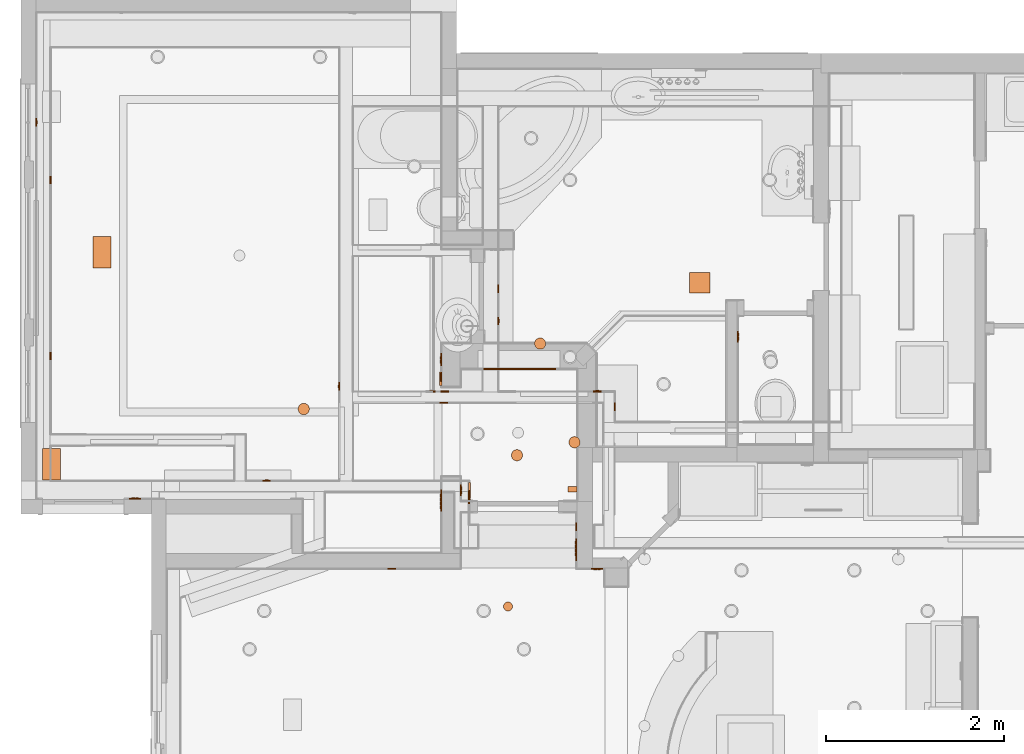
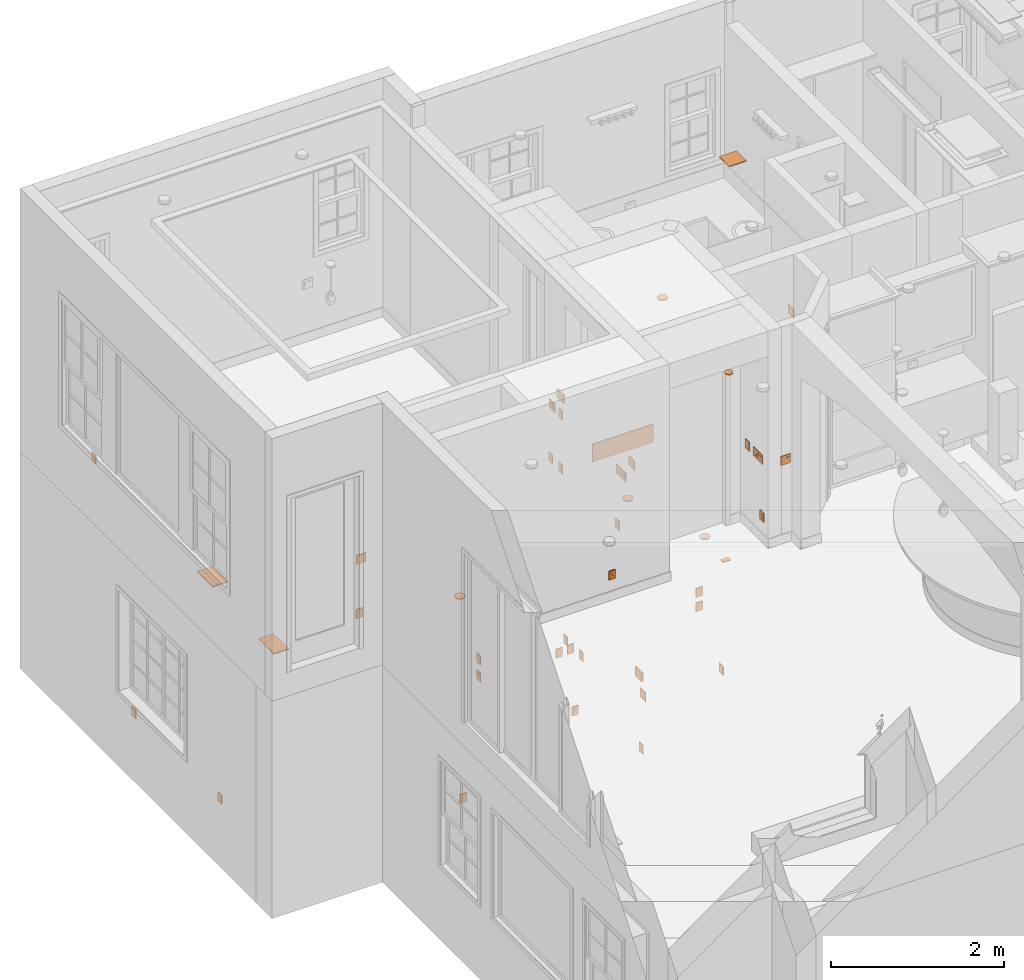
# One storey, part 67 of 81: 43 proxies.
"""IFC2X3 building model written with IfcOpenShell, lengths in feet."""

from ifc_helpers import new_model, entity, si_unit, converted_unit, derived_unit, direction, frame, frame_2d, origin, origin_2d_with_axis, place, context, subcontext, project, spatial, polyline, circle_curve, parameter, trimmed, segment, composite_curve, rectangle, circle, outline, extrude, source, transform, mapped, material, type_object, type_shapes, element, save


model = new_model("IFC2X3")

# Units and contexts
model_context = context("Model", 3, precision=0.0001, world=origin(), true_north=direction((6.12303176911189e-17, 1.0)))
body_context = subcontext(model_context, "Body", "Model", "MODEL_VIEW")
ifc_project = project(units=[converted_unit("LENGTHUNIT", "FOOT", entity("IfcRatioMeasure", 0.3048), si_unit("LENGTHUNIT", "METRE"), dimensions=[1, 0, 0, 0, 0, 0, 0]), converted_unit("AREAUNIT", "SQUARE FOOT", entity("IfcRatioMeasure", 0.09290304), si_unit("AREAUNIT", "SQUARE_METRE"), dimensions=[2, 0, 0, 0, 0, 0, 0]), converted_unit("VOLUMEUNIT", "CUBIC FOOT", entity("IfcRatioMeasure", 0.028316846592), si_unit("VOLUMEUNIT", "CUBIC_METRE"), dimensions=[3, 0, 0, 0, 0, 0, 0]), converted_unit("PLANEANGLEUNIT", "DEGREE", entity("IfcRatioMeasure", 0.0174532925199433), si_unit("PLANEANGLEUNIT", "RADIAN"), dimensions=[0, 0, 0, 0, 0, 0, 0]), si_unit("MASSUNIT", "GRAM", prefix="KILO"), derived_unit("MASSDENSITYUNIT", [(si_unit("MASSUNIT", "GRAM", prefix="KILO"), 1), (si_unit("LENGTHUNIT", "METRE"), -3)]), derived_unit("MOMENTOFINERTIAUNIT", [(si_unit("LENGTHUNIT", "METRE"), 4)]), si_unit("TIMEUNIT", "SECOND"), si_unit("FREQUENCYUNIT", "HERTZ"), si_unit("THERMODYNAMICTEMPERATUREUNIT", "DEGREE_CELSIUS"), derived_unit("THERMALTRANSMITTANCEUNIT", [(si_unit("MASSUNIT", "GRAM", prefix="KILO"), 1), (si_unit("THERMODYNAMICTEMPERATUREUNIT", "KELVIN"), -1), (si_unit("TIMEUNIT", "SECOND"), -3)]), derived_unit("VOLUMETRICFLOWRATEUNIT", [(si_unit("LENGTHUNIT", "METRE"), 3), (si_unit("TIMEUNIT", "SECOND"), -1)]), si_unit("ELECTRICCURRENTUNIT", "AMPERE"), si_unit("ELECTRICVOLTAGEUNIT", "VOLT"), si_unit("POWERUNIT", "WATT"), si_unit("FORCEUNIT", "NEWTON"), si_unit("ILLUMINANCEUNIT", "LUX"), si_unit("LUMINOUSFLUXUNIT", "LUMEN"), si_unit("LUMINOUSINTENSITYUNIT", "CANDELA"), derived_unit("USERDEFINED", [(si_unit("MASSUNIT", "GRAM", prefix="KILO"), -1), (si_unit("LENGTHUNIT", "METRE"), -2), (si_unit("TIMEUNIT", "SECOND"), 3), (si_unit("LUMINOUSFLUXUNIT", "LUMEN"), 1)]), derived_unit("LINEARVELOCITYUNIT", [(si_unit("LENGTHUNIT", "METRE"), 1), (si_unit("TIMEUNIT", "SECOND"), -1)]), si_unit("PRESSUREUNIT", "PASCAL"), derived_unit("USERDEFINED", [(si_unit("LENGTHUNIT", "METRE"), -2), (si_unit("MASSUNIT", "GRAM", prefix="KILO"), 1), (si_unit("TIMEUNIT", "SECOND"), -2)]), derived_unit("LINEARFORCEUNIT", [(si_unit("MASSUNIT", "GRAM", prefix="KILO"), 1), (si_unit("LENGTHUNIT", "METRE"), 1), (si_unit("TIMEUNIT", "SECOND"), -2), (si_unit("LENGTHUNIT", "METRE"), -1)]), derived_unit("PLANARFORCEUNIT", [(si_unit("MASSUNIT", "GRAM", prefix="KILO"), 1), (si_unit("LENGTHUNIT", "METRE"), 1), (si_unit("TIMEUNIT", "SECOND"), -2), (si_unit("LENGTHUNIT", "METRE"), -2)])], contexts=[model_context])

# Site, building, storey
site_placement = place(None, origin())
site = spatial("IfcSite", under=ifc_project, at=site_placement, Name="Default", CompositionType="ELEMENT")
building_placement = place(site_placement, origin())
building = spatial("IfcBuilding", under=site, at=building_placement, CompositionType="ELEMENT")
storey_placement = place(building_placement, origin())
storey = spatial("IfcBuildingStorey", under=building, at=storey_placement, Name="First floor", CompositionType="ELEMENT", Elevation=0.0)

# Proxies
ifc_material = material(Name="Default New Material")
building_element_proxy_type_1 = type_object("IfcBuildingElementProxyType", Name="Switch 4:Switch 4", PredefinedType="NOTDEFINED", material=ifc_material)
shared_shape_1 = source(origin(), body_context, "Body", "SweptSolid", [
    extrude(outline(composite_curve([segment(polyline([(-0.0309162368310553, -0.0465871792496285), (0.0309162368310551, -0.0465871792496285)]), True, "CONTINUOUS"), segment(trimmed(circle_curve(frame_2d((-0.000264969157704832, 0.0), x_axis=(-1.0, 0.0)), 0.056059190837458), [parameter(123.794740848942)], [parameter(236.205259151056)], True, "PARAMETER"), True, "CONTINUOUS"), segment(polyline([(0.0309162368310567, 0.0465871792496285), (-0.0309162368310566, 0.0465871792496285)]), True, "CONTINUOUS"), segment(trimmed(circle_curve(frame_2d((0.000264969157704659, 0.0), x_axis=(1.0, 0.0)), 0.056059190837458), [parameter(123.794740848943)], [parameter(236.205259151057)], True, "PARAMETER"), True, "CONTINUOUS")], self_intersect=False), holes=[polyline([(0.0141623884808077, 0.0279286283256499), (0.0261732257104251, 0.0279286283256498), (0.026173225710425, -0.00693584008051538), (0.0141623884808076, -0.00693584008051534), (0.0141623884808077, 0.0279286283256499)]), polyline([(-0.0152702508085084, 0.0250466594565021), (-0.0152702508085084, -0.00448340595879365), (-0.0278178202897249, -0.00448340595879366), (-0.0278178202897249, 0.0250466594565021), (-0.0152702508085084, 0.0250466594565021)]), composite_curve([segment(polyline([(-0.0120315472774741, -0.041319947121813), (-0.0120315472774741, -0.0300186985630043)]), True, "CONTINUOUS"), segment(trimmed(circle_curve(frame_2d((-0.000284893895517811, -0.0300186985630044), x_axis=(-1.0, 0.0)), 0.0117466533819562), [parameter(180.0)], [parameter(0.0)], True, "PARAMETER"), False, "CONTINUOUS"), segment(polyline([(0.0114617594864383, -0.0300186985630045), (0.0114617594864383, -0.0413199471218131)]), True, "CONTINUOUS"), segment(polyline([(0.0114617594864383, -0.0413199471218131), (-0.0120315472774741, -0.041319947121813)]), True, "CONTINUOUS")], self_intersect=False)]), frame((-0.0114927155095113, 0.0416666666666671, 0.27060332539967), z_axis=(0.0, 1.0, 0.0), x_axis=(-1.0, 0.0, 0.0)), (0.0, 0.0, 1.0), 0.00420900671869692),
    extrude(outline(composite_curve([segment(polyline([(-0.0307631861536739, -0.0463565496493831), (0.0307631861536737, -0.0463565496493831)]), True, "CONTINUOUS"), segment(trimmed(circle_curve(frame_2d((-0.000263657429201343, 0.0), x_axis=(-1.0, 0.0)), 0.0557816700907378), [parameter(123.794740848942)], [parameter(236.205259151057)], True, "PARAMETER"), True, "CONTINUOUS"), segment(polyline([(0.030763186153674, 0.0463565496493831), (-0.0307631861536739, 0.0463565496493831)]), True, "CONTINUOUS"), segment(trimmed(circle_curve(frame_2d((0.00026365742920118, 0.0), x_axis=(1.0, 0.0)), 0.0557816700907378), [parameter(123.794740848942)], [parameter(236.205259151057)], True, "PARAMETER"), True, "CONTINUOUS")], self_intersect=False), holes=[polyline([(0.0140922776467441, 0.0247228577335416), (0.026043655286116, 0.0247228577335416), (0.0260436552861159, -0.00472751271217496), (0.014092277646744, -0.00472751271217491), (0.0140922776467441, 0.0247228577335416)]), polyline([(-0.0151946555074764, 0.0249226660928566), (-0.0151946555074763, -0.0044612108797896), (-0.0276801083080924, -0.00446121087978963), (-0.0276801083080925, 0.0249226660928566), (-0.0151946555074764, 0.0249226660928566)]), composite_curve([segment(polyline([(-0.0119719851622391, -0.0411153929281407), (-0.011971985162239, -0.0298700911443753)]), True, "CONTINUOUS"), segment(trimmed(circle_curve(frame_2d((-0.000283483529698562, -0.0298700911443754), x_axis=(-1.0, 0.0)), 0.0116885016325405), [parameter(180.0)], [parameter(0.0)], True, "PARAMETER"), False, "CONTINUOUS"), segment(polyline([(0.0114050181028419, -0.0298700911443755), (0.0114050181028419, -0.0411153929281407)]), True, "CONTINUOUS"), segment(polyline([(0.0114050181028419, -0.0411153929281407), (-0.0119719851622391, -0.0411153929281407)]), True, "CONTINUOUS")], self_intersect=False)]), frame((-0.0114927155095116, 0.0416666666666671, 0.145832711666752), z_axis=(0.0, 1.0, 0.0), x_axis=(-1.0, 0.0, 0.0)), (0.0, 0.0, 1.0), 0.00420900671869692),
    extrude(rectangle(XDim=0.0416666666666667, YDim=0.291666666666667, at=frame_2d((0.0, 1.38777878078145e-17), x_axis=(1.0, 0.0))), frame((-0.0114927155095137, 0.0208333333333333, 0.0), z_axis=(0.0, 0.0, 1.0), x_axis=(0.0, -1.0, 0.0)), (0.0, 0.0, 1.0), 0.416666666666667),
])
type_shapes(building_element_proxy_type_1, [shared_shape_1])
proxy_1_placement = place(storey_placement, frame((-6.26149271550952, 35.1666666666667, 0.958333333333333), z_axis=(0.0, 0.0, 1.0), x_axis=(-1.0, 0.0, 0.0)))
element("IfcBuildingElementProxy", 1, at=proxy_1_placement, inside=storey, type_object=building_element_proxy_type_1, material=ifc_material, Name="Switch 4:Switch 4", ObjectType="Switch 4:Switch 4", context=body_context, shape_type="MappedRepresentation", body=[
    mapped(shared_shape_1, transform((0.0, 0.0, 0.0), scale=1.0)),
])
proxy_2_placement = place(storey_placement, frame((-12.7801739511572, 32.25, 0.958333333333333)))
element("IfcBuildingElementProxy", 2, at=proxy_2_placement, inside=storey, type_object=building_element_proxy_type_1, material=ifc_material, Name="Switch 4:Switch 4", ObjectType="Switch 4:Switch 4", context=body_context, shape_type="MappedRepresentation", body=[
    mapped(shared_shape_1, transform((0.0, 0.0, 0.0), scale=1.0)),
])
for number, where, z_axis, x_axis, name in (
    (3, (-20.7916666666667, 43.3635072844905, 0.958333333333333), (0.0, 0.0, 1.0), (0.0, -1.0, 0.0), "Switch 4:Switch 4"),
    (4, (-20.7916666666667, 36.8635072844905, 0.958333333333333), (0.0, 0.0, 1.0), (0.0, -1.0, 0.0), "Switch 4:Switch 4"),
    (5, (-4.25000000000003, 38.1551739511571, 0.958333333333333), (0.0, 0.0, 1.0), (0.0, -1.0, 0.0), "Switch 4:Switch 4"),
    (6, (-21.3125, 45.4885072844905, 11.625), (0.0, 0.0, 1.0), (0.0, -1.0, 0.0), "Switch 4:Switch 4"),
):
    element("IfcBuildingElementProxy", number, at=place(storey_placement, frame(where, z_axis=z_axis, x_axis=x_axis)), inside=storey, type_object=building_element_proxy_type_1, material=ifc_material, Name=name, ObjectType="Switch 4:Switch 4", context=body_context, shape_type="MappedRepresentation", body=[
        mapped(shared_shape_1, transform((0.0, 0.0, 0.0), scale=1.0)),
    ])
proxy_3_placement = place(storey_placement, frame((-17.7083333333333, 31.5833333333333, 11.625)))
element("IfcBuildingElementProxy", 7, at=proxy_3_placement, inside=storey, type_object=building_element_proxy_type_1, material=ifc_material, Name="Switch 4:Switch 4", ObjectType="Switch 4:Switch 4", context=body_context, shape_type="MappedRepresentation", body=[
    mapped(shared_shape_1, transform((0.0, 0.0, 0.0), scale=1.0)),
])
for number, where, z_axis, x_axis, name in (
    (8, (-6.31250000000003, 31.8031593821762, 11.625), (0.0, 0.0, 1.0), (0.0, 1.0, 0.0), "Switch 4:Switch 4"),
    (9, (-6.31250000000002, 36.0948260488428, 11.625), (0.0, 0.0, 1.0), (0.0, 1.0, 0.0), "Switch 4:Switch 4"),
    (10, (-8.17815938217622, 29.0416666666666, 11.6250022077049), (0.0, 0.0, 1.0), (-1.0, 0.0, 0.0), "Switch 4:Switch 4"),
    (11, (-1.33333333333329, 29.4791666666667, 11.6666666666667), (0.0, 0.0, 1.0), (0.0, 1.0, 0.0), "Switch 4:Switch 4"),
):
    element("IfcBuildingElementProxy", number, at=place(storey_placement, frame(where, z_axis=z_axis, x_axis=x_axis)), inside=storey, type_object=building_element_proxy_type_1, material=ifc_material, Name=name, ObjectType="Switch 4:Switch 4", context=body_context, shape_type="MappedRepresentation", body=[
        mapped(shared_shape_1, transform((0.0, 0.0, 0.0), scale=1.0)),
    ])
building_element_proxy_type_2 = type_object("IfcBuildingElementProxyType", Name="Switch 1:Switch 1", PredefinedType="NOTDEFINED", material=ifc_material)
shared_shape_2 = source(origin(), body_context, "Body", "SweptSolid", [
    extrude(rectangle(XDim=0.0416666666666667, YDim=0.291666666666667, at=frame_2d((1.73472347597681e-18, -1.38777878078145e-17), x_axis=(1.0, 0.0))), frame((0.0149704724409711, 0.0208333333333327, 0.0), z_axis=(0.0, 0.0, 1.0), x_axis=(0.0, 1.0, 0.0)), (0.0, 0.0, 1.0), 0.416666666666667),
])
type_shapes(building_element_proxy_type_2, [shared_shape_2])
for number, where, z_axis, x_axis, name in (
    (12, (-5.29166666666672, 31.7350295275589, 0.958333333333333), (0.0, 0.0, 1.0), (0.0, 1.0, 0.0), "Switch 1:Switch 1"),
    (13, (-10.0833333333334, 35.735029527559, 4.33333333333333), (0.0, 0.0, 1.0), (0.0, 1.0, 0.0), "Switch 1:Switch 1"),
):
    element("IfcBuildingElementProxy", number, at=place(storey_placement, frame(where, z_axis=z_axis, x_axis=x_axis)), inside=storey, type_object=building_element_proxy_type_2, material=ifc_material, Name=name, ObjectType="Switch 1:Switch 1", context=body_context, shape_type="MappedRepresentation", body=[
        mapped(shared_shape_2, transform((0.0, 0.0, 0.0), scale=1.0)),
    ])
for number, where, name in (
    (14, (-6.22330380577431, 35.5416666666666, 3.54166666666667), "Switch 1:Switch 1"),
    (15, (-0.59830380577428, 35.5416666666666, 4.20833333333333), "Switch 1:Switch 1"),
):
    element("IfcBuildingElementProxy", number, at=place(storey_placement, frame(where)), inside=storey, type_object=building_element_proxy_type_2, material=ifc_material, Name=name, ObjectType="Switch 1:Switch 1", context=body_context, shape_type="MappedRepresentation", body=[
        mapped(shared_shape_2, transform((0.0, 0.0, 0.0), scale=1.0)),
    ])
for number, where, z_axis, x_axis, name in (
    (16, (0.0416666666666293, 35.0149704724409, 0.75), (0.0, 0.0, 1.0), (0.0, -1.0, 0.0), "Switch 1:Switch 1"),
    (17, (-4.25000000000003, 39.3691371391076, 0.958333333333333), (0.0, 0.0, 1.0), (0.0, -1.0, 0.0), "Switch 1:Switch 1"),
    (18, (-6.31250000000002, 36.8183628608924, 11.625), (0.0, 0.0, 1.0), (0.0, 1.0, 0.0), "Switch 1:Switch 1"),
    (19, (-6.31250000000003, 36.0683628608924, 14.125), (0.0, 0.0, 1.0), (0.0, 1.0, 0.0), "Switch 1:Switch 1"),
    (20, (-1.33333333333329, 30.5475295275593, 14.2916666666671), (0.0, 0.0, 1.0), (0.0, 1.0, 0.0), "Switch 1:Switch 1"),
):
    element("IfcBuildingElementProxy", number, at=place(storey_placement, frame(where, z_axis=z_axis, x_axis=x_axis)), inside=storey, type_object=building_element_proxy_type_2, material=ifc_material, Name=name, ObjectType="Switch 1:Switch 1", context=body_context, shape_type="MappedRepresentation", body=[
        mapped(shared_shape_2, transform((0.0, 0.0, 0.0), scale=1.0)),
    ])
building_element_proxy_type_3 = type_object("IfcBuildingElementProxyType", Name="Ceiling Duct:Ceiling Duct", PredefinedType="NOTDEFINED", material=ifc_material)
shared_shape_3 = source(origin(), body_context, "Body", "SweptSolid", [
    extrude(rectangle(XDim=0.666666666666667, YDim=1.16666666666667, at=origin_2d_with_axis()), frame((0.583333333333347, -0.333333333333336, -0.0416666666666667), z_axis=(0.0, 0.0, 1.0), x_axis=(0.0, 1.0, 0.0)), (0.0, 0.0, 1.0), 0.0416666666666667),
])
type_shapes(building_element_proxy_type_3, [shared_shape_3])
proxy_4_placement = place(storey_placement, frame((-19.2083333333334, 40.125, 8.41666666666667), z_axis=(0.0, 0.0, 1.0), x_axis=(0.0, 1.0, 0.0)))
element("IfcBuildingElementProxy", 21, at=proxy_4_placement, inside=storey, type_object=building_element_proxy_type_3, material=ifc_material, Name="Ceiling Duct:Ceiling Duct", ObjectType="Ceiling Duct:Ceiling Duct", context=body_context, shape_type="MappedRepresentation", body=[
    mapped(shared_shape_3, transform((0.0, 0.0, 0.0), scale=1.0)),
])
building_element_proxy_type_4 = type_object("IfcBuildingElementProxyType", Name="Switch 22:Switch 22", PredefinedType="NOTDEFINED", material=ifc_material)
shared_shape_4 = source(origin(), body_context, "Body", "SweptSolid", [
    extrude(outline(polyline([(-0.0259922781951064, -0.0993451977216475), (-0.00568037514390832, -0.0993451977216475), (-0.00432436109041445, -0.021559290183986), (0.021153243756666, 0.109511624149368), (0.0148437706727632, 0.110738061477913), (-0.0259922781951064, -0.0993451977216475)])), frame((0.216904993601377, 0.0482254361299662, 0.203805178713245), z_axis=(1.0, 0.0, 0.0), x_axis=(0.0, 0.981627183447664, 0.190808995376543)), (0.0, 0.0, 1.0), 0.104166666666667),
    extrude(outline(polyline([(-0.0259922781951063, -0.0993451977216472), (-0.00568037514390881, -0.0993451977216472), (-0.00432436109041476, -0.0215592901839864), (0.0211532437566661, 0.109511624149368), (0.0148437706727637, 0.110738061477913), (-0.0259922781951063, -0.0993451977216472)])), frame((0.0752383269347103, 0.0482254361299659, 0.203805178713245), z_axis=(1.0, 0.0, 0.0), x_axis=(0.0, 0.981627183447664, 0.190808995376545)), (0.0, 0.0, 1.0), 0.104166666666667),
    extrude(outline(polyline([(-0.102069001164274, -0.00649102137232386), (0.111946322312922, -0.00649102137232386), (0.111946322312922, -6.34558053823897e-05), (-0.0235644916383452, -6.34558053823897e-05), (-0.0982591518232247, 0.0131089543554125), (-0.102069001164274, -0.00649102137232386)])), frame((-0.0664283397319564, 0.0481576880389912, 0.2120154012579), z_axis=(1.0, 0.0, 0.0), x_axis=(0.0, 0.0, -1.0)), (0.0, 0.0, 1.0), 0.104166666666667),
    extrude(outline(polyline([(-0.102069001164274, -0.00649102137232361), (0.111946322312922, -0.00649102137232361), (0.111946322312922, -6.34558053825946e-05), (-0.0235644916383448, -6.34558053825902e-05), (-0.0982591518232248, 0.0131089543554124), (-0.102069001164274, -0.00649102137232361)])), frame((-0.208095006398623, 0.048157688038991, 0.2120154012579), z_axis=(1.0, 0.0, 0.0), x_axis=(0.0, 0.0, -1.0)), (0.0, 0.0, 1.0), 0.104166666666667),
    extrude(rectangle(XDim=0.0416666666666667, YDim=0.708333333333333, at=origin_2d_with_axis()), frame((0.0564883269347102, 0.0208333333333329, 0.0), z_axis=(0.0, 0.0, 1.0), x_axis=(0.0, -1.0, 0.0)), (0.0, 0.0, 1.0), 0.416666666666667),
])
type_shapes(building_element_proxy_type_4, [shared_shape_4])
for number, where, z_axis, x_axis, name in (
    (22, (-6.31250000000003, 31.4435116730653, 14.1666666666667), (0.0, 0.0, 1.0), (0.0, 1.0, 0.0), "Switch 22:Switch 22"),
    (23, (-1.33333333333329, 29.7143450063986, 14.2916666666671), (0.0, 0.0, 1.0), (0.0, 1.0, 0.0), "Switch 22:Switch 22"),
):
    element("IfcBuildingElementProxy", number, at=place(storey_placement, frame(where, z_axis=z_axis, x_axis=x_axis)), inside=storey, type_object=building_element_proxy_type_4, material=ifc_material, Name=name, ObjectType="Switch 22:Switch 22", context=body_context, shape_type="MappedRepresentation", body=[
        mapped(shared_shape_4, transform((0.0, 0.0, 0.0), scale=1.0)),
    ])
building_element_proxy_type_5 = type_object("IfcBuildingElementProxyType", Name="Switch 6:Switch 6", PredefinedType="NOTDEFINED", material=ifc_material)
shared_shape_5 = source(origin(), body_context, "Body", "SweptSolid", [
    extrude(outline(polyline([(-0.0254447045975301, -0.101047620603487), (-0.00704945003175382, -0.101047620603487), (-0.00576030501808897, -0.0270975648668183), (0.021685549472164, 0.114099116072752), (0.0165689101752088, 0.11509369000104), (-0.0254447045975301, -0.101047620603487)])), frame((0.0159752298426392, 0.0473630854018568, 0.202286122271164), z_axis=(1.0, 0.0, 0.0), x_axis=(0.0, 0.981627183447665, 0.190808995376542)), (0.0, 0.0, 1.0), 0.104166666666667),
    extrude(outline(polyline([(-0.105609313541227, -0.00595439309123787), (0.114577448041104, -0.00595439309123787), (0.114577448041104, -0.000741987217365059), (-0.0216969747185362, -0.00074198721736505), (-0.101848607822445, 0.0133927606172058), (-0.105609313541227, -0.00595439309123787)])), frame((-0.129858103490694, 0.047621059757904, 0.211324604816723), z_axis=(1.0, 0.0, 0.0), x_axis=(0.0, 0.0, -1.0)), (0.0, 0.0, 1.0), 0.104166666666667),
    extrude(rectangle(XDim=0.0416666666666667, YDim=0.416666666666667, at=frame_2d((0.0, -1.38777878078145e-17), x_axis=(1.0, 0.0))), frame((-0.00485810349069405, 0.0208333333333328, 0.0), z_axis=(0.0, 0.0, 1.0), x_axis=(0.0, -1.0, 0.0)), (0.0, 0.0, 1.0), 0.416666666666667),
])
type_shapes(building_element_proxy_type_5, [shared_shape_5])
for number, where, z_axis, x_axis, name in (
    (24, (-5.33333333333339, 31.6201418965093, 3.5), (0.0, 0.0, 1.0), (0.0, -1.0, 0.0), "Switch 6:Switch 6"),
    (25, (-6.31250000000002, 36.7340247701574, 14.125), (0.0, 0.0, 1.0), (0.0, 1.0, 0.0), "Switch 6:Switch 6"),
    (26, (-5.64583333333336, 31.911808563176, 14.125), (0.0, 0.0, 1.0), (0.0, -1.0, 0.0), "Switch 6:Switch 6"),
):
    element("IfcBuildingElementProxy", number, at=place(storey_placement, frame(where, z_axis=z_axis, x_axis=x_axis)), inside=storey, type_object=building_element_proxy_type_5, material=ifc_material, Name=name, ObjectType="Switch 6:Switch 6", context=body_context, shape_type="MappedRepresentation", body=[
        mapped(shared_shape_5, transform((0.0, 0.0, 0.0), scale=1.0)),
    ])
proxy_5_placement = place(storey_placement, frame((-17.6409752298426, 31.5833333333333, 14.125)))
element("IfcBuildingElementProxy", 27, at=proxy_5_placement, inside=storey, type_object=building_element_proxy_type_5, material=ifc_material, Name="Switch 6:Switch 6", ObjectType="Switch 6:Switch 6", context=body_context, shape_type="MappedRepresentation", body=[
    mapped(shared_shape_5, transform((0.0, 0.0, 0.0), scale=1.0)),
])
for number, where, z_axis, x_axis, name in (
    (28, (4.58333333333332, 37.5781300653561, 14.125), (0.0, 0.0, 1.0), (0.0, -1.0, 0.0), "Switch 6:Switch 6"),
    (29, (-0.588191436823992, 29.0416666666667, 14.2916666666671), (0.0, 0.0, 1.0), (-1.0, 0.0, 0.0), "Switch 6:Switch 6"),
):
    element("IfcBuildingElementProxy", number, at=place(storey_placement, frame(where, z_axis=z_axis, x_axis=x_axis)), inside=storey, type_object=building_element_proxy_type_5, material=ifc_material, Name=name, ObjectType="Switch 6:Switch 6", context=body_context, shape_type="MappedRepresentation", body=[
        mapped(shared_shape_5, transform((0.0, 0.0, 0.0), scale=1.0)),
    ])
building_element_proxy_type_6 = type_object("IfcBuildingElementProxyType", Name="Specialty Equipment_1:Specialty Equipment_1", PredefinedType="NOTDEFINED", material=ifc_material)
shared_shape_6 = source(origin(), body_context, "Body", "SweptSolid", [
    extrude(rectangle(XDim=0.5, YDim=0.0833333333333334, at=origin_2d_with_axis()), frame((0.0, -0.0416666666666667, 0.0), z_axis=(0.0, 0.0, 1.0), x_axis=(-1.0, 0.0, 0.0)), (0.0, 0.0, 1.0), 0.416666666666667),
])
type_shapes(building_element_proxy_type_6, [shared_shape_6])
proxy_6_placement = place(storey_placement, frame((-5.33333333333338, 31.9583333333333, 4.25), z_axis=(0.0, 0.0, 1.0), x_axis=(0.0, 1.0, 0.0)))
element("IfcBuildingElementProxy", 30, at=proxy_6_placement, inside=storey, type_object=building_element_proxy_type_6, material=ifc_material, Name="Specialty Equipment_1:Specialty Equipment_1", ObjectType="Specialty Equipment_1:Specialty Equipment_1", context=body_context, shape_type="MappedRepresentation", body=[
    mapped(shared_shape_6, transform((0.0, 0.0, 0.0), scale=1.0)),
])
building_element_proxy_type_7 = type_object("IfcBuildingElementProxyType", Name="Specialty Equipment_4:Specialty Equipment_4", PredefinedType="NOTDEFINED", material=ifc_material)
shared_shape_7 = source(origin(), body_context, "Body", "SweptSolid", [
    extrude(circle(Radius=0.208333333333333, at=frame_2d((-1.34040111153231e-17, -3.36571786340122e-16), x_axis=(1.0, 0.0))), frame((0.0, 0.0, -0.0416666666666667)), (0.0, 0.0, 1.0), 0.0416666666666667),
])
type_shapes(building_element_proxy_type_7, [shared_shape_7])
for number, where, name in (
    (31, (-1.4166666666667, 33.6875, 8.41666666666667), "Specialty Equipment_4:Specialty Equipment_4"),
    (32, (-11.4166666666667, 34.9166666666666, 8.41666666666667), "Specialty Equipment_4:Specialty Equipment_4"),
    (33, (-2.68750000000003, 37.3333333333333, 8.41666666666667), "Specialty Equipment_4:Specialty Equipment_4"),
    (34, (-3.54166666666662, 33.2083333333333, 20.5), "Specialty Equipment_4:Specialty Equipment_4"),
):
    element("IfcBuildingElementProxy", number, at=place(storey_placement, frame(where)), inside=storey, type_object=building_element_proxy_type_7, material=ifc_material, Name=name, ObjectType="Specialty Equipment_4:Specialty Equipment_4", context=body_context, shape_type="MappedRepresentation", body=[
        mapped(shared_shape_7, transform((0.0, 0.0, 0.0), scale=1.0)),
    ])
building_element_proxy_type_8 = type_object("IfcBuildingElementProxyType", Name="Switch 3:Switch 3", PredefinedType="NOTDEFINED", material=ifc_material)
shared_shape_8 = source(origin(), body_context, "Body", "SweptSolid", [
    extrude(outline(polyline([(-0.104054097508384, -0.005864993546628), (0.112106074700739, -0.005864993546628), (0.112106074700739, -0.000652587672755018), (-0.0212705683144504, -0.000652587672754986), (-0.0988874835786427, 0.0130351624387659), (-0.104054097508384, -0.005864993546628)])), frame((-0.0648037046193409, 0.0475316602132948, 0.212359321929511), z_axis=(1.0, 0.0, 0.0), x_axis=(0.0, 0.0, -1.0)), (0.0, 0.0, 1.0), 0.104166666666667),
    extrude(rectangle(XDim=0.0416666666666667, YDim=0.291666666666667, at=frame_2d((0.0, -1.38777878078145e-17), x_axis=(1.0, 0.0))), frame((-0.012720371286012, 0.020833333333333, 0.0), z_axis=(0.0, 0.0, 1.0), x_axis=(0.0, -1.0, 0.0)), (0.0, 0.0, 1.0), 0.416666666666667),
])
type_shapes(building_element_proxy_type_8, [shared_shape_8])
proxy_7_placement = place(storey_placement, frame((-10.0833333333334, 35.762720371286, 3.54166666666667), z_axis=(0.0, 0.0, 1.0), x_axis=(0.0, 1.0, 0.0)))
element("IfcBuildingElementProxy", 35, at=proxy_7_placement, inside=storey, type_object=building_element_proxy_type_8, material=ifc_material, Name="Switch 3:Switch 3", ObjectType="Switch 3:Switch 3", context=body_context, shape_type="MappedRepresentation", body=[
    mapped(shared_shape_8, transform((0.0, 0.0, 0.0), scale=1.0)),
])
for number, where, name in (
    (36, (-6.69561296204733, 35.5416666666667, 3.54166666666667), "Switch 3:Switch 3"),
    (37, (-0.570612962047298, 35.5416666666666, 3.54166666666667), "Switch 3:Switch 3"),
):
    element("IfcBuildingElementProxy", number, at=place(storey_placement, frame(where)), inside=storey, type_object=building_element_proxy_type_8, material=ifc_material, Name=name, ObjectType="Switch 3:Switch 3", context=body_context, shape_type="MappedRepresentation", body=[
        mapped(shared_shape_8, transform((0.0, 0.0, 0.0), scale=1.0)),
    ])
building_element_proxy_type_9 = type_object("IfcBuildingElementProxyType", Name="Ceiling Duct:Ceiling Duct", PredefinedType="NOTDEFINED", material=ifc_material)
shared_shape_9 = source(origin(), body_context, "Body", "SweptSolid", [
    extrude(rectangle(XDim=0.75, YDim=0.75, at=frame_2d((0.0, 5.55111512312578e-17), x_axis=(1.0, 0.0))), frame((0.375000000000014, -0.375000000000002, -0.0416666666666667), z_axis=(0.0, 0.0, 1.0), x_axis=(0.0, 1.0, 0.0)), (0.0, 0.0, 1.0), 0.0416666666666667),
])
type_shapes(building_element_proxy_type_9, [shared_shape_9])
proxy_8_placement = place(storey_placement, frame((2.83333333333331, 39.9579881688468, 20.6666666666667)))
element("IfcBuildingElementProxy", 38, at=proxy_8_placement, inside=storey, type_object=building_element_proxy_type_9, material=ifc_material, Name="Ceiling Duct:Ceiling Duct", ObjectType="Ceiling Duct:Ceiling Duct", context=body_context, shape_type="MappedRepresentation", body=[
    mapped(shared_shape_9, transform((0.0, 0.0, 0.0), scale=1.0)),
])
building_element_proxy_type_10 = type_object("IfcBuildingElementProxyType", Name="Floor Duct:Floor Duct", PredefinedType="NOTDEFINED", material=ifc_material)
shared_shape_10 = source(origin(), body_context, "Body", "SweptSolid", [
    extrude(rectangle(XDim=1.16666666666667, YDim=0.666666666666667, at=origin_2d_with_axis()), frame((0.0, 0.0, 0.0), z_axis=(0.0, 0.0, 1.0), x_axis=(-1.0, 0.0, 0.0)), (0.0, 0.0, 1.0), 0.0416666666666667),
])
type_shapes(building_element_proxy_type_10, [shared_shape_10])
proxy_9_placement = place(storey_placement, frame((-20.7291666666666, 32.875, 10.6666666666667), z_axis=(0.0, 0.0, 1.0), x_axis=(0.0, 1.0, 0.0)))
element("IfcBuildingElementProxy", 39, at=proxy_9_placement, inside=storey, type_object=building_element_proxy_type_10, material=ifc_material, Name="Floor Duct:Floor Duct", ObjectType="Floor Duct:Floor Duct", context=body_context, shape_type="MappedRepresentation", body=[
    mapped(shared_shape_10, transform((0.0, 0.0, 0.0), scale=1.0)),
])
building_element_proxy_type_11 = type_object("IfcBuildingElementProxyType", Name="Wall Duct:Wall Duct", PredefinedType="NOTDEFINED", material=ifc_material)
shared_shape_11 = source(origin(), body_context, "Body", "SweptSolid", [
    extrude(rectangle(XDim=2.66666666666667, YDim=0.041666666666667, at=origin_2d_with_axis()), frame((0.0, -0.0208333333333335, 0.0), z_axis=(0.0, 0.0, 1.0), x_axis=(-1.0, 0.0, 0.0)), (0.0, 0.0, 1.0), 0.833333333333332),
])
type_shapes(building_element_proxy_type_11, [shared_shape_11])
proxy_10_placement = place(storey_placement, frame((-3.43665839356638, 36.4166666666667, 11.375)))
element("IfcBuildingElementProxy", 40, at=proxy_10_placement, inside=storey, type_object=building_element_proxy_type_11, material=ifc_material, Name="Wall Duct:Wall Duct", ObjectType="Wall Duct:Wall Duct", context=body_context, shape_type="MappedRepresentation", body=[
    mapped(shared_shape_11, transform((0.0, 0.0, 0.0), scale=1.0)),
])
building_element_proxy_type_12 = type_object("IfcBuildingElementProxyType", Name="Specialty Equipment_4:Specialty Equipment_4", PredefinedType="NOTDEFINED", material=ifc_material)
shared_shape_12 = source(origin(), body_context, "Body", "SweptSolid", [
    extrude(circle(Radius=0.166666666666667, at=frame_2d((-1.34040111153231e-17, -2.69257429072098e-16), x_axis=(1.0, 0.0))), frame((0.0, 0.0, -0.0416666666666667)), (0.0, 0.0, 1.0), 0.0416666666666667),
])
type_shapes(building_element_proxy_type_12, [shared_shape_12])
proxy_11_placement = place(storey_placement, frame((-3.87499999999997, 27.625, 20.5416666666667)))
element("IfcBuildingElementProxy", 41, at=proxy_11_placement, inside=storey, type_object=building_element_proxy_type_12, material=ifc_material, Name="Specialty Equipment_4:Specialty Equipment_4", ObjectType="Specialty Equipment_4:Specialty Equipment_4", context=body_context, shape_type="MappedRepresentation", body=[
    mapped(shared_shape_12, transform((0.0, 0.0, 0.0), scale=1.0)),
])
building_element_proxy_type_13 = type_object("IfcBuildingElementProxyType", Name="Specialty Equipment_1:Specialty Equipment_1", PredefinedType="NOTDEFINED", material=ifc_material)
shared_shape_13 = source(origin(), body_context, "Body", "SweptSolid", [
    extrude(rectangle(XDim=0.208333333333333, YDim=0.333333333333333, at=origin_2d_with_axis()), frame((0.0, -0.166666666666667, 0.0), z_axis=(0.0, 0.0, 1.0), x_axis=(-1.0, 0.0, 0.0)), (0.0, 0.0, 1.0), 0.0416666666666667),
])
type_shapes(building_element_proxy_type_13, [shared_shape_13])
proxy_12_placement = place(storey_placement, frame((-1.66666666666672, 31.9583333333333, 8.375), z_axis=(0.0, 0.0, 1.0), x_axis=(0.0, 1.0, 0.0)))
element("IfcBuildingElementProxy", 42, at=proxy_12_placement, inside=storey, type_object=building_element_proxy_type_13, material=ifc_material, Name="Specialty Equipment_1:Specialty Equipment_1", ObjectType="Specialty Equipment_1:Specialty Equipment_1", context=body_context, shape_type="MappedRepresentation", body=[
    mapped(shared_shape_13, transform((0.0, 0.0, 0.0), scale=1.0)),
])
building_element_proxy_type_14 = type_object("IfcBuildingElementProxyType", Name="Specialty Equipment_1:Specialty Equipment_1", PredefinedType="NOTDEFINED", material=ifc_material)
shared_shape_14 = source(origin(), body_context, "Body", "SweptSolid", [
    extrude(rectangle(XDim=0.5, YDim=0.0833333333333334, at=origin_2d_with_axis()), frame((0.0, -0.0416666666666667, 0.0), z_axis=(0.0, 0.0, 1.0), x_axis=(-1.0, 0.0, 0.0)), (0.0, 0.0, 1.0), 0.375),
])
type_shapes(building_element_proxy_type_14, [shared_shape_14])
proxy_13_placement = place(storey_placement, frame((-6.39583333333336, 36.0416666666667, 15.0), z_axis=(0.0, 0.0, 1.0), x_axis=(0.0, 1.0, 0.0)))
element("IfcBuildingElementProxy", 43, at=proxy_13_placement, inside=storey, type_object=building_element_proxy_type_14, material=ifc_material, Name="Specialty Equipment_1:Specialty Equipment_1", ObjectType="Specialty Equipment_1:Specialty Equipment_1", context=body_context, shape_type="MappedRepresentation", body=[
    mapped(shared_shape_14, transform((0.0, 0.0, 0.0), scale=1.0)),
])

save(model, "model.ifc")
